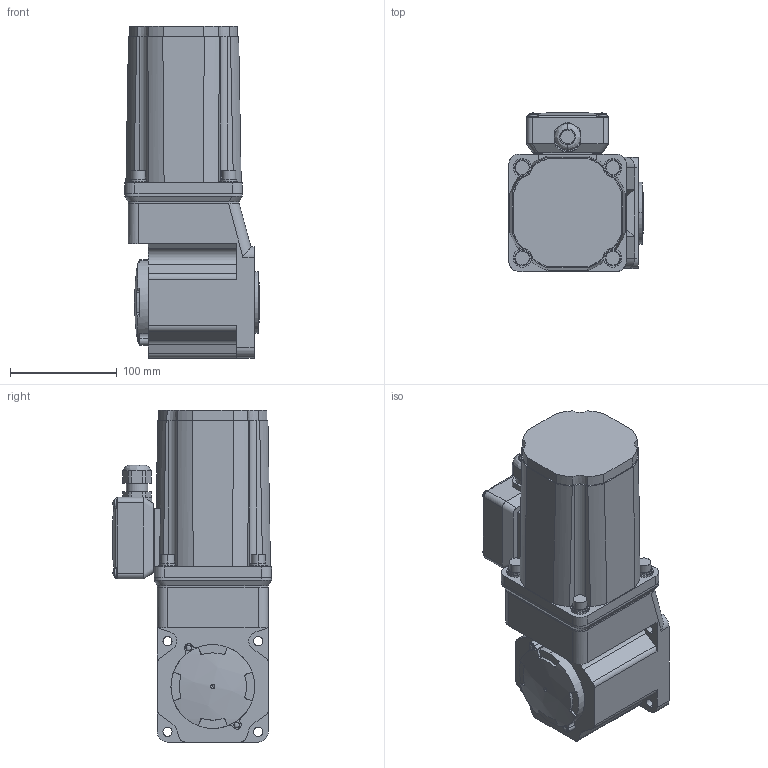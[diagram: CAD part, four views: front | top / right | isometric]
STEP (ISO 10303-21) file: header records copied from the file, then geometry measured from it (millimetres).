
FILE_DESCRIPTION (( 'STEP AP203' ), '1' );
FILE_NAME ('A1807.step', '2020-10-19T00:31:18', ( 'Windows ユーザー' ), ( '' ), 'SwSTEP 2.0', 'SolidWorks 2017', '' );
FILE_SCHEMA (( 'CONFIG_CONTROL_DESIGN' ));
Length unit declared in the file: millimetre
Products named in the file (1): A1807
Bounding box: 125.8 x 149 x 311 mm (x, y, z)
Volume: 2944207.2 mm3; surface area: 299839.6 mm2
Topology: 3 solids, 11 shells, 776 faces, 1953 edges, 1252 vertices
Faces by surface type: cylinder 345, plane 220, bspline 144, cone 67
Entity records: 27811 total; most frequent: CARTESIAN_POINT 9305, DIRECTION 3949, ORIENTED_EDGE 3882, EDGE_CURVE 1941, AXIS2_PLACEMENT_3D 1605, VERTEX_POINT 1252, CIRCLE 972, EDGE_LOOP 861
